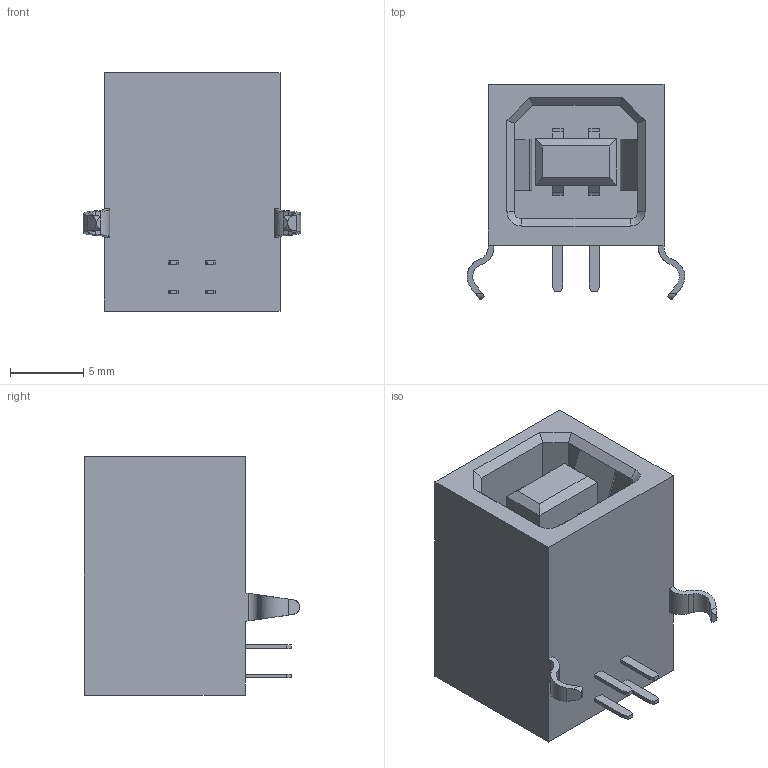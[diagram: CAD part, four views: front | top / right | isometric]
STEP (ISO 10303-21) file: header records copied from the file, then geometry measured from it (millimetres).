
FILE_DESCRIPTION( ( 'Unknown' ), '1' );
FILE_NAME( 'L:/Projects/Project - STEP Models/STEP Models (Final)/USB Type B/USB-B-S-F-W-TH.stp', 'Unknown', ( 'Unknown' ), ( 'Unknown' ), 'XStep 1.0', 'Unknown', ' ' );
FILE_SCHEMA( ( 'automotive_design' ) );
Length unit declared in the file: millimetre
Products named in the file (1): USB-B-S-X-X-TH
Bounding box: 14.9 x 14.72 x 16.3 mm (x, y, z)
Volume: 1744.7 mm3; surface area: 1602.9 mm2
Topology: 1 solids, 1 shells, 138 faces, 380 edges, 246 vertices
Faces by surface type: plane 110, cylinder 26, cone 2
Entity records: 5440 total; most frequent: CARTESIAN_POINT 843, ORIENTED_EDGE 760, DIRECTION 668, EDGE_CURVE 380, LINE 318, VECTOR 318, VERTEX_POINT 246, AXIS2_PLACEMENT_3D 175
